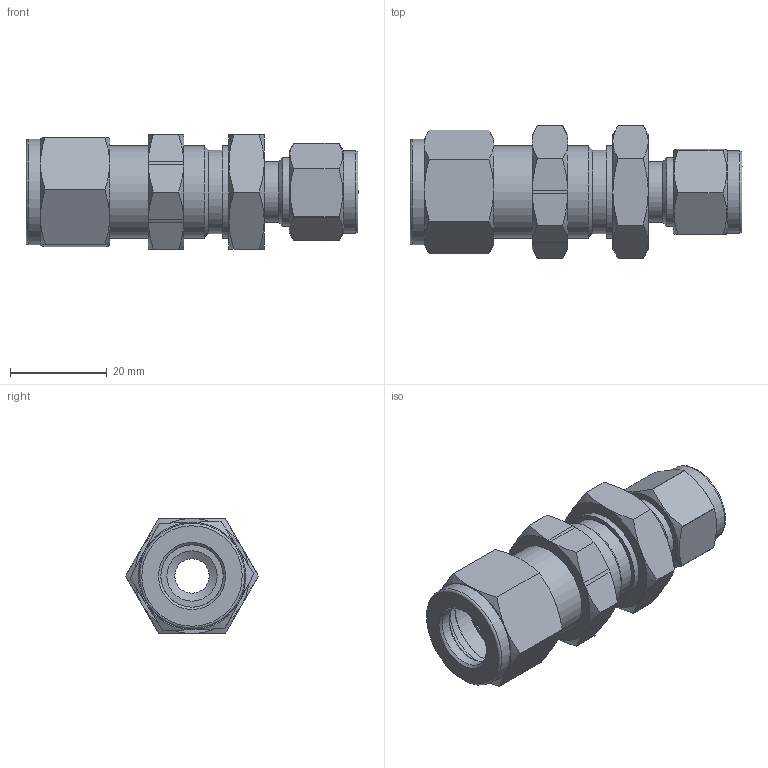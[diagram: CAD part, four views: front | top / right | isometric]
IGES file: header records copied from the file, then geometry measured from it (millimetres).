
Global section: file name: No Iges File Name specified; native system: Autodesk Inventor 2012; preprocessor: AutoDesk Inventor Iges Exporter R2012; author: 硅己绕,,1; organization: 1; date: 20150422.145707; units: millimetre
Bounding box: 68.71 x 27.48 x 23.81 mm (x, y, z)
Volume: 16882.2 mm3; surface area: 11191.6 mm2
Topology: 4 solids, 4 shells, 141 faces, 303 edges, 181 vertices
Faces by surface type: plane 49, cone 42, revolution 25, cylinder 21, torus 4
Full cylindrical faces by diameter (mm): 12.5 x1, 12.7 x1, 14.28 x1, 17 x1, 17.2 x1, 17.3 x1, 19.05 x2, 21.8 x1
